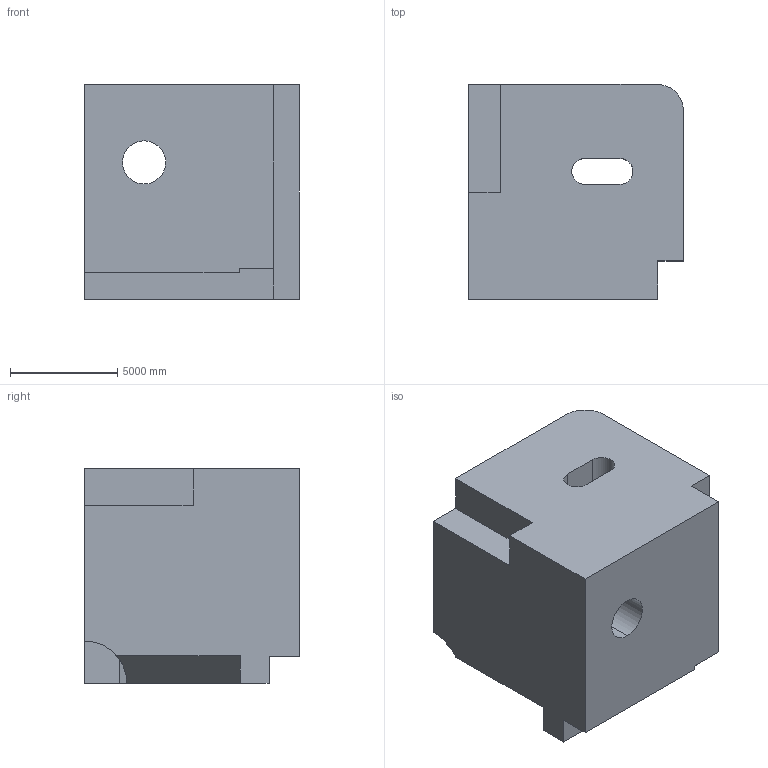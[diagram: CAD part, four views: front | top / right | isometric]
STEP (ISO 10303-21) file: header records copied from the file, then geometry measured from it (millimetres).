
FILE_DESCRIPTION (( 'STEP AP203' ), '1' );
FILE_NAME ('1905.STEP', '2022-08-26T13:36:03', ( 'user' ), ( '' ), 'SwSTEP 2.0', 'SolidWorks 2021', '' );
FILE_SCHEMA (( 'CONFIG_CONTROL_DESIGN' ));
Length unit declared in the file: centimetre
Products named in the file (1): 1905
Bounding box: 10000 x 10000 x 10000 mm (x, y, z)
Volume: 849371228641.3 mm3; surface area: 710904012.2 mm2
Topology: 1 solids, 1 shells, 34 faces, 99 edges, 66 vertices
Faces by surface type: plane 27, cylinder 7
Entity records: 1203 total; most frequent: CARTESIAN_POINT 206, ORIENTED_EDGE 198, DIRECTION 182, EDGE_CURVE 99, VECTOR 82, LINE 82, VERTEX_POINT 66, AXIS2_PLACEMENT_3D 50
